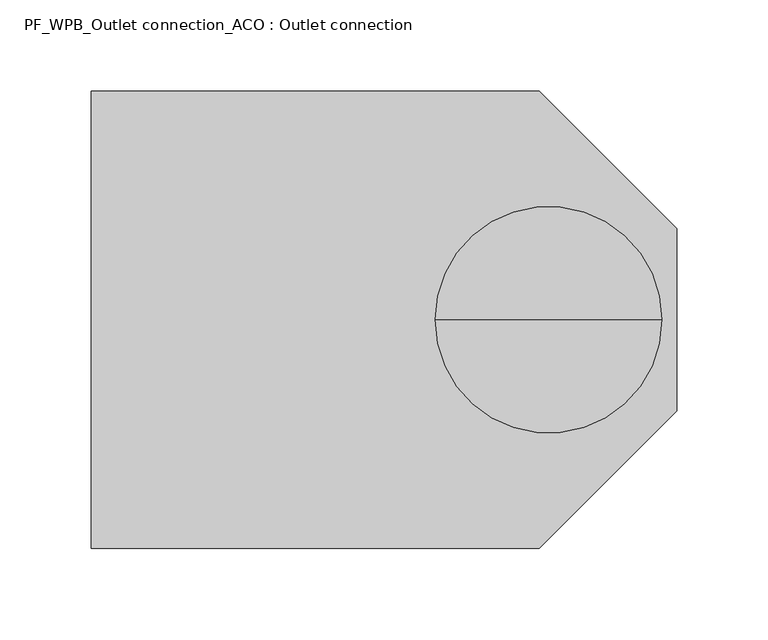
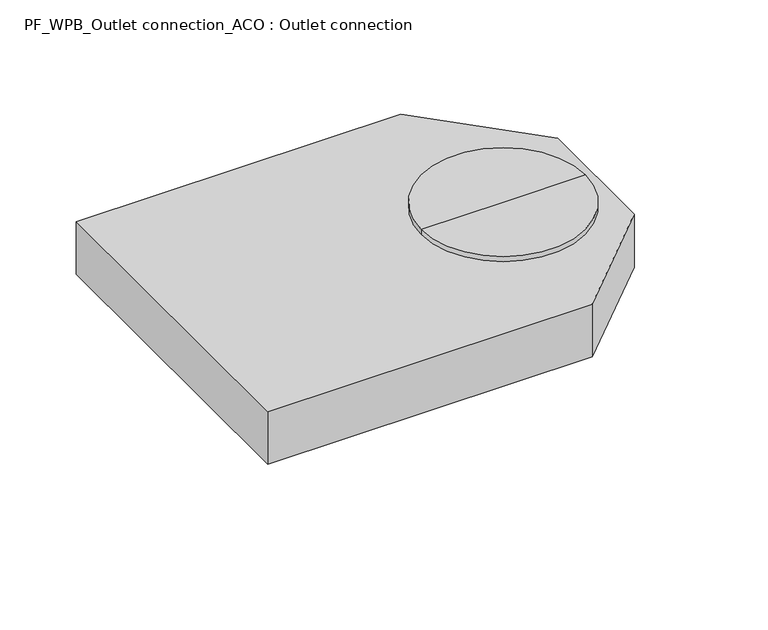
"""IFC4 building model written with IfcOpenShell, lengths in millimetres: sanitary terminal geometry, PF_WPB_Outlet connection_ACO : Outlet connection."""

from ifc_helpers import new_model, si_unit, frame, origin, place, context, project, spatial, polyline, circle_curve, outline, extrude, source, transform, mapped, element, save
from ifc_brep_helpers import plane_surface, cylinder_surface, advanced_brep


def pf_wpb_outlet_connection_aco_outlet_connection_40a16143(model_context):
    return source(origin(), model_context, "Body", "SolidModel", [
        advanced_brep(
        [(285.0, 0.0, -113.0), (215.0, 0.0, -113.0), (215.0, 0.0, 0.0), (285.0, 0.0, 0.0), (250.0, 0.0, -113.0), (312.0, 0.0, 4.0), (188.0, 0.0, 4.0), (250.0, 0.0, 4.0), (312.0, 0.0, 0.0), (188.0, 0.0, 0.0)],
        [
            (0, 1, circle_curve(frame((250.0, 0.0, -113.0), z_axis=(0.0, 0.0, 1.0), x_axis=(-1.0, 0.0, 0.0)), 35.0)),
            (1, 2),
            (2, 3, circle_curve(frame((250.0, 0.0, 0.0), z_axis=(0.0, 0.0, -1.0), x_axis=(-1.0, 0.0, 0.0)), 35.0)),
            (3, 0),
            (1, 0, circle_curve(frame((250.0, 0.0, -113.0), z_axis=(0.0, 0.0, 1.0), x_axis=(-1.0, 0.0, 0.0)), 35.0)),
            (3, 2, circle_curve(frame((250.0, 0.0, 0.0), z_axis=(0.0, 0.0, -1.0), x_axis=(-1.0, 0.0, 0.0)), 35.0)),
            (4, 1),
            (0, 4),
            (5, 6, circle_curve(frame((250.0, 0.0, 4.0), z_axis=(0.0, 0.0, 1.0), x_axis=(-1.0, 0.0, 0.0)), 62.0)),
            (6, 7),
            (7, 5),
            (6, 5, circle_curve(frame((250.0, 0.0, 4.0), z_axis=(0.0, 0.0, 1.0), x_axis=(-1.0, 0.0, 0.0)), 62.0)),
            (8, 9, circle_curve(frame((250.0, 0.0, 0.0), z_axis=(0.0, 0.0, 1.0), x_axis=(-1.0, 0.0, 0.0)), 62.0)),
            (9, 6),
            (5, 8),
            (9, 8, circle_curve(frame((250.0, 0.0, 0.0), z_axis=(0.0, 0.0, 1.0), x_axis=(-1.0, 0.0, 0.0)), 62.0)),
            (2, 9),
            (8, 3),
        ],
        [
            cylinder_surface(frame((250.0, 0.0, 160.3878679), z_axis=(0.0, 0.0, -1.0), x_axis=(-1.0, 0.0, 0.0)), 35.0),
            plane_surface(frame((250.0, 0.0, -113.0), z_axis=(0.0, 0.0, -1.0), x_axis=(-1.0, 0.0, 0.0))),
            plane_surface(frame((250.0, 0.0, 4.0), z_axis=(0.0, 0.0, 1.0), x_axis=(-1.0, 0.0, 0.0))),
            cylinder_surface(frame((250.0, 0.0, 160.3878679), z_axis=(0.0, 0.0, -1.0), x_axis=(-1.0, 0.0, 0.0)), 62.0),
            plane_surface(frame((250.0, 0.0, 0.0), z_axis=(0.0, 0.0, -1.0), x_axis=(-1.0, 0.0, 0.0))),
        ],
        [
            (0, [[1, 2, 3, 4]]),
            (0, [[5, -4, 6, -2]]),
            (1, [[7, -1, 8]]),
            (1, [[-8, -5, -7]]),
            (2, [[9, 10, 11]]),
            (2, [[12, -11, -10]]),
            (3, [[13, 14, -9, 15]]),
            (3, [[16, -15, -12, -14]]),
            (4, [[-3, 17, -13, 18]]),
            (4, [[-6, -18, -16, -17]]),
        ],
    ),
        extrude(outline(polyline([(320.0, -50.0), (245.0, -125.0), (0.0, -125.0), (0.0, 125.0), (245.0, 125.0), (320.0, 50.0), (320.0, -50.0)])), frame((0.0, 0.0, -42.0), z_axis=(0.0, 0.0, 1.0), x_axis=(1.0, 0.0, 0.0)), (0.0, 0.0, 1.0), 42.0),
    ])


if __name__ == "__main__":
    model = new_model("IFC4")
    model_context = context("Model", 3, world=origin())
    ifc_project = project(units=[si_unit("LENGTHUNIT", "METRE", prefix="MILLI")], contexts=[model_context])
    site = spatial("IfcSite", under=ifc_project)
    building = spatial("IfcBuilding", under=site)
    placement = place(None, origin())
    pf_wpb_outlet_connection_aco_outlet_connection_shape = pf_wpb_outlet_connection_aco_outlet_connection_40a16143(model_context)
    element("IfcSanitaryTerminal", 1, ObjectType="PF_WPB_Outlet connection_ACO : Outlet connection", at=placement, inside=building, context=model_context, shape_type="MappedRepresentation", body=[
        mapped(pf_wpb_outlet_connection_aco_outlet_connection_shape, transform((0.0, 0.0, 0.0), x_axis=(1.0, 0.0, 0.0), y_axis=(0.0, 1.0, 0.0), z_axis=(0.0, 0.0, 1.0))),
    ])
    save(model, "model.ifc")
